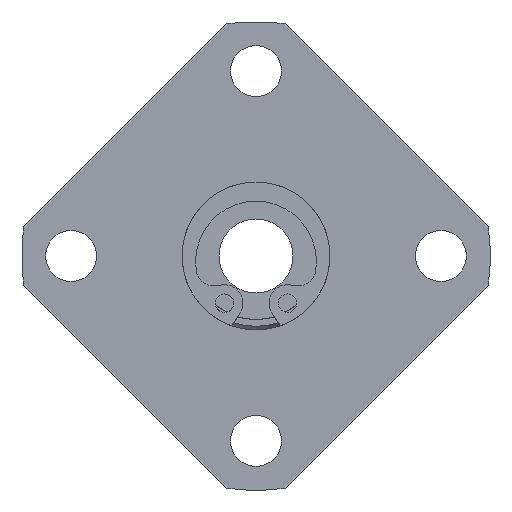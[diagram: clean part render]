
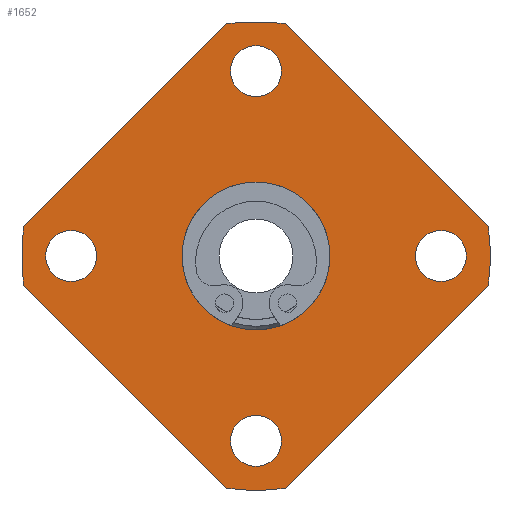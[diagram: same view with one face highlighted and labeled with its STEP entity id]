
A CAD part, left-side view. The second image highlights one B-rep face of the part: STEP entity #1652.
In plain terms, the highlighted planar face has unit normal (-1, 0, 0).
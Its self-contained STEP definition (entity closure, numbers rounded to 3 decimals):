
#60=CARTESIAN_POINT('',(0.0,15.0,-2.067));
#61=VERTEX_POINT('',#60);
#62=CARTESIAN_POINT('',(0.0,15.0,0.));
#63=DIRECTION('',(1.0,0.0,0.0));
#64=DIRECTION('',(0.0,0.0,-1.0));
#65=AXIS2_PLACEMENT_3D('',#62,#63,#64);
#66=CIRCLE('',#65,2.067);
#67=EDGE_CURVE('',#61,#61,#66,.T.);
#88=CARTESIAN_POINT('',(0.0,-2.067,-15.0));
#89=VERTEX_POINT('',#88);
#90=CARTESIAN_POINT('',(0.0,0.,-15.0));
#91=DIRECTION('',(1.0,0.0,0.0));
#92=DIRECTION('',(0.0,-1.0,0.0));
#93=AXIS2_PLACEMENT_3D('',#90,#91,#92);
#94=CIRCLE('',#93,2.067);
#95=EDGE_CURVE('',#89,#89,#94,.T.);
#116=CARTESIAN_POINT('',(0.0,-15.0,2.067));
#117=VERTEX_POINT('',#116);
#118=CARTESIAN_POINT('',(0.0,-15.0,0.));
#119=DIRECTION('',(1.0,0.0,0.0));
#120=DIRECTION('',(0.0,0.0,1.0));
#121=AXIS2_PLACEMENT_3D('',#118,#119,#120);
#122=CIRCLE('',#121,2.067);
#123=EDGE_CURVE('',#117,#117,#122,.T.);
#144=CARTESIAN_POINT('',(0.0,2.067,15.0));
#145=VERTEX_POINT('',#144);
#146=CARTESIAN_POINT('',(0.0,0.0,15.0));
#147=DIRECTION('',(1.0,0.0,0.0));
#148=DIRECTION('',(0.0,1.0,0.0));
#149=AXIS2_PLACEMENT_3D('',#146,#147,#148);
#150=CIRCLE('',#149,2.067);
#151=EDGE_CURVE('',#145,#145,#150,.T.);
#171=CARTESIAN_POINT('',(0.0,-18.853,-2.36));
#172=VERTEX_POINT('',#171);
#179=CARTESIAN_POINT('',(0.0,-2.36,-18.853));
#180=VERTEX_POINT('',#179);
#181=CARTESIAN_POINT('',(0.0,-2.36,-18.853));
#182=DIRECTION('',(0.0,-0.707,0.707));
#183=VECTOR('',#182,23.324);
#184=LINE('',#181,#183);
#185=EDGE_CURVE('',#180,#172,#184,.T.);
#211=CARTESIAN_POINT('',(0.0,18.853,2.36));
#212=VERTEX_POINT('',#211);
#219=CARTESIAN_POINT('',(0.0,2.36,18.853));
#220=VERTEX_POINT('',#219);
#221=CARTESIAN_POINT('',(0.0,2.36,18.853));
#222=DIRECTION('',(0.0,0.707,-0.707));
#223=VECTOR('',#222,23.324);
#224=LINE('',#221,#223);
#225=EDGE_CURVE('',#220,#212,#224,.T.);
#251=CARTESIAN_POINT('',(0.0,2.36,-18.853));
#252=VERTEX_POINT('',#251);
#259=CARTESIAN_POINT('',(0.0,18.853,-2.36));
#260=VERTEX_POINT('',#259);
#261=CARTESIAN_POINT('',(0.0,18.853,-2.36));
#262=DIRECTION('',(0.0,-0.707,-0.707));
#263=VECTOR('',#262,23.324);
#264=LINE('',#261,#263);
#265=EDGE_CURVE('',#260,#252,#264,.T.);
#291=CARTESIAN_POINT('',(0.0,-2.36,18.853));
#292=VERTEX_POINT('',#291);
#299=CARTESIAN_POINT('',(0.0,-18.853,2.36));
#300=VERTEX_POINT('',#299);
#301=CARTESIAN_POINT('',(0.0,-18.853,2.36));
#302=DIRECTION('',(0.0,0.707,0.707));
#303=VECTOR('',#302,23.324);
#304=LINE('',#301,#303);
#305=EDGE_CURVE('',#300,#292,#304,.T.);
#322=CARTESIAN_POINT('',(0.0,0.0,0.0));
#323=DIRECTION('',(-1.0,0.0,0.0));
#324=DIRECTION('',(0.0,0.0,1.0));
#325=AXIS2_PLACEMENT_3D('',#322,#323,#324);
#326=CIRCLE('',#325,19.);
#327=EDGE_CURVE('',#292,#220,#326,.T.);
#354=CARTESIAN_POINT('',(0.0,0.0,0.0));
#355=DIRECTION('',(-1.0,0.0,0.0));
#356=DIRECTION('',(0.0,0.0,1.0));
#357=AXIS2_PLACEMENT_3D('',#354,#355,#356);
#358=CIRCLE('',#357,19.);
#359=EDGE_CURVE('',#212,#260,#358,.T.);
#370=CARTESIAN_POINT('',(0.0,0.0,0.0));
#371=DIRECTION('',(-1.0,0.0,0.0));
#372=DIRECTION('',(0.0,0.0,1.0));
#373=AXIS2_PLACEMENT_3D('',#370,#371,#372);
#374=CIRCLE('',#373,19.);
#375=EDGE_CURVE('',#252,#180,#374,.T.);
#402=CARTESIAN_POINT('',(0.0,0.0,0.0));
#403=DIRECTION('',(-1.0,0.0,0.0));
#404=DIRECTION('',(0.0,0.0,1.0));
#405=AXIS2_PLACEMENT_3D('',#402,#403,#404);
#406=CIRCLE('',#405,19.);
#407=EDGE_CURVE('',#172,#300,#406,.T.);
#1614=CARTESIAN_POINT('',(0.0,0.0,12.5));
#1615=DIRECTION('',(-1.0,0.0,0.0));
#1616=DIRECTION('',(0.0,0.0,1.0));
#1617=AXIS2_PLACEMENT_3D('',#1614,#1615,#1616);
#1618=PLANE('',#1617);
#1619=ORIENTED_EDGE('',*,*,#185,.T.);
#1620=ORIENTED_EDGE('',*,*,#407,.T.);
#1621=ORIENTED_EDGE('',*,*,#305,.T.);
#1622=ORIENTED_EDGE('',*,*,#327,.T.);
#1623=ORIENTED_EDGE('',*,*,#225,.T.);
#1624=ORIENTED_EDGE('',*,*,#359,.T.);
#1625=ORIENTED_EDGE('',*,*,#265,.T.);
#1626=ORIENTED_EDGE('',*,*,#375,.T.);
#1627=EDGE_LOOP('',(#1619,#1620,#1621,#1622,#1623,#1624,#1625,#1626));
#1628=FACE_OUTER_BOUND('',#1627,.T.);
#1629=ORIENTED_EDGE('',*,*,#67,.T.);
#1630=EDGE_LOOP('',(#1629));
#1631=FACE_BOUND('',#1630,.T.);
#1632=ORIENTED_EDGE('',*,*,#95,.T.);
#1633=EDGE_LOOP('',(#1632));
#1634=FACE_BOUND('',#1633,.T.);
#1635=ORIENTED_EDGE('',*,*,#123,.T.);
#1636=EDGE_LOOP('',(#1635));
#1637=FACE_BOUND('',#1636,.T.);
#1638=ORIENTED_EDGE('',*,*,#151,.T.);
#1639=EDGE_LOOP('',(#1638));
#1640=FACE_BOUND('',#1639,.T.);
#1641=CARTESIAN_POINT('',(0.0,0.0,6.));
#1642=VERTEX_POINT('',#1641);
#1643=CARTESIAN_POINT('',(0.0,0.0,0.0));
#1644=DIRECTION('',(-1.0,0.0,0.0));
#1645=DIRECTION('',(0.0,0.0,1.0));
#1646=AXIS2_PLACEMENT_3D('',#1643,#1644,#1645);
#1647=CIRCLE('',#1646,6.);
#1648=EDGE_CURVE('',#1642,#1642,#1647,.T.);
#1649=ORIENTED_EDGE('',*,*,#1648,.F.);
#1650=EDGE_LOOP('',(#1649));
#1651=FACE_BOUND('',#1650,.T.);
#1652=ADVANCED_FACE('',(#1628,#1631,#1634,#1637,#1640,#1651),#1618,.T.);
